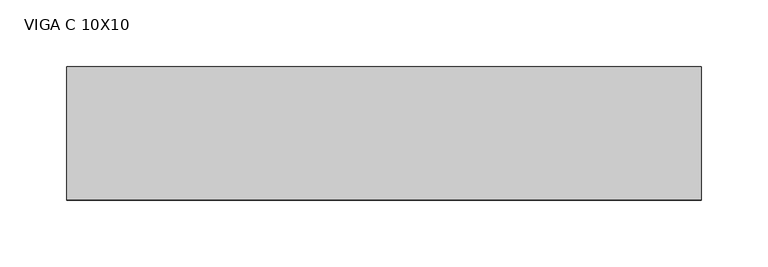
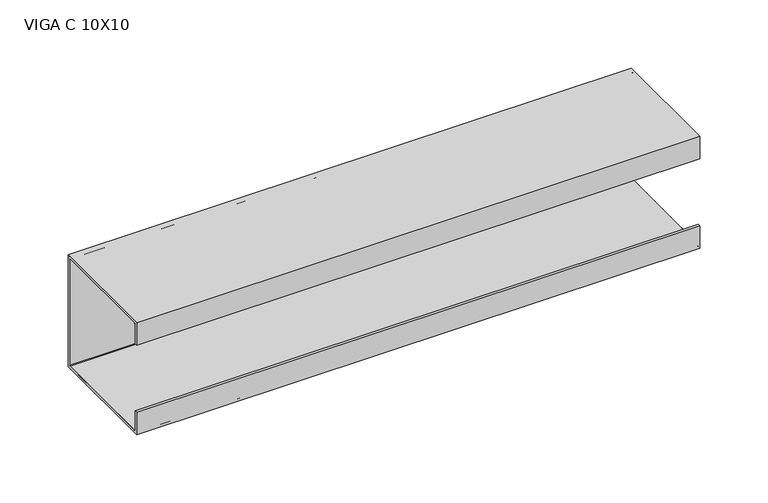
"""IFC4 building model written with IfcOpenShell, lengths in millimetres: beam geometry, VIGA PERFIL C AÇO : VIGA C 10X10."""

from ifc_helpers import new_model, si_unit, point, frame, frame_2d, origin, place, context, project, spatial, polyline, circle_curve, trimmed, segment, composite_curve, outline, extrude, source, transform, mapped, element, save


def viga_c_10x10_4bff73f7(model_context):
    return source(origin(), model_context, "Body", "SweptSolid", [
        extrude(outline(polyline([(9.2, -50.0), (-90.8, -50.0), (-90.8, -30.0), (-88.9, -30.0), (-88.9, -48.1), (7.3, -48.1), (7.3, 48.1), (-88.9, 48.1), (-88.9, 30.0), (-90.8, 30.0), (-90.8, 50.0), (9.2, 50.0), (9.2, -50.0)])), frame((-245.5, 0.0, 0.0), z_axis=(1.0, 0.0, 0.0), x_axis=(0.0, 1.0, 0.0)), (0.0, 0.0, 1.0), 476.0),
        extrude(outline(composite_curve([segment(trimmed(circle_curve(frame_2d((5.4, -46.2)), 3.8), [point((9.2, -46.2))], [point((5.4, -50.0))], False, "CARTESIAN"), True, "CONTINUOUS"), segment(polyline([(5.4, -50.0), (-87.0, -50.0)]), True, "CONTINUOUS"), segment(trimmed(circle_curve(frame_2d((-87.0, -46.2)), 3.8), [point((-87.0, -50.0))], [point((-90.8, -46.2))], False, "CARTESIAN"), True, "CONTINUOUS"), segment(polyline([(-90.8, -46.2), (-90.8, -30.0), (-88.9, -30.0), (-88.9, -46.2)]), True, "CONTINUOUS"), segment(trimmed(circle_curve(frame_2d((-87.0, -46.2)), 1.9), [point((-88.9, -46.2))], [point((-87.0, -48.1))], True, "CARTESIAN"), True, "CONTINUOUS"), segment(polyline([(-87.0, -48.1), (5.4, -48.1)]), True, "CONTINUOUS"), segment(trimmed(circle_curve(frame_2d((5.4, -46.2)), 1.9), [point((5.4, -48.1))], [point((7.3, -46.2))], True, "CARTESIAN"), True, "CONTINUOUS"), segment(polyline([(7.3, -46.2), (7.3, 46.2)]), True, "CONTINUOUS"), segment(trimmed(circle_curve(frame_2d((5.4, 46.2)), 1.9), [point((7.3, 46.2))], [point((5.4, 48.1))], True, "CARTESIAN"), True, "CONTINUOUS"), segment(polyline([(5.4, 48.1), (-87.0, 48.1)]), True, "CONTINUOUS"), segment(trimmed(circle_curve(frame_2d((-87.0, 46.2)), 1.9), [point((-87.0, 48.1))], [point((-88.9, 46.2))], True, "CARTESIAN"), True, "CONTINUOUS"), segment(polyline([(-88.9, 46.2), (-88.9, 30.0), (-90.8, 30.0), (-90.8, 46.2)]), True, "CONTINUOUS"), segment(trimmed(circle_curve(frame_2d((-87.0, 46.2)), 3.8), [point((-90.8, 46.2))], [point((-87.0, 50.0))], False, "CARTESIAN"), True, "CONTINUOUS"), segment(polyline([(-87.0, 50.0), (5.4, 50.0)]), True, "CONTINUOUS"), segment(trimmed(circle_curve(frame_2d((5.4, 46.2)), 3.8), [point((5.4, 50.0))], [point((9.2, 46.2))], False, "CARTESIAN"), True, "CONTINUOUS"), segment(polyline([(9.2, 46.2), (9.2, -46.2)]), True, "CONTINUOUS")], self_intersect=False)), frame((-245.5, 0.0, 0.0), z_axis=(1.0, 0.0, 0.0), x_axis=(0.0, 1.0, 0.0)), (0.0, 0.0, 1.0), 476.0),
    ])


if __name__ == "__main__":
    model = new_model("IFC4")
    model_context = context("Model", 3, world=origin())
    ifc_project = project(units=[si_unit("LENGTHUNIT", "METRE", prefix="MILLI")], contexts=[model_context])
    site = spatial("IfcSite", under=ifc_project)
    building = spatial("IfcBuilding", under=site)
    placement = place(None, origin())
    viga_c_10x10_shape = viga_c_10x10_4bff73f7(model_context)
    element("IfcBeam", 1, ObjectType="VIGA PERFIL C AÇO : VIGA C 10X10", at=placement, inside=building, context=model_context, shape_type="MappedRepresentation", body=[
        mapped(viga_c_10x10_shape, transform((0.0, 0.0, 0.0), x_axis=(1.0, 0.0, 0.0), y_axis=(0.0, 1.0, 0.0), z_axis=(0.0, 0.0, 1.0))),
    ])
    save(model, "model.ifc")
